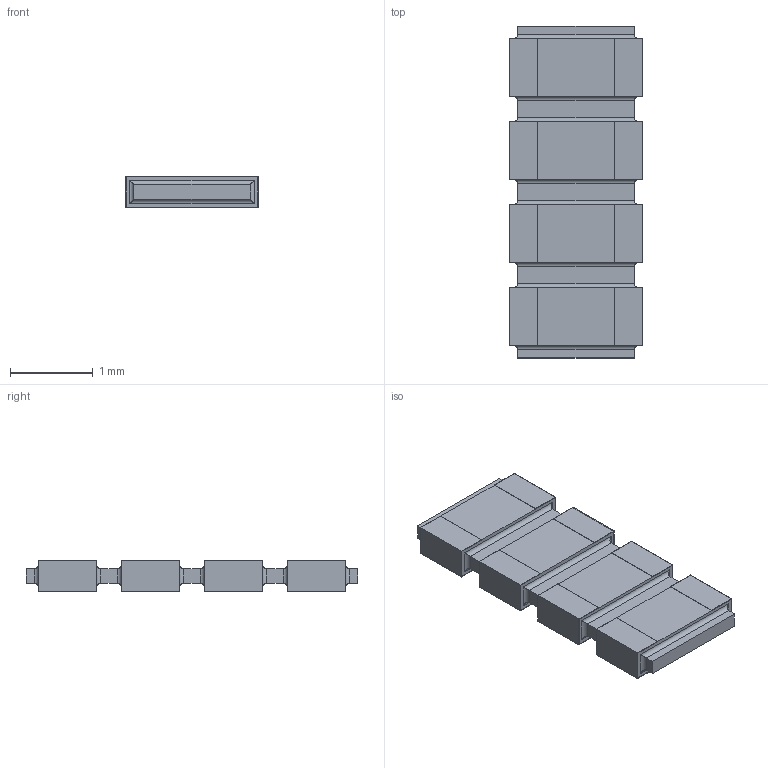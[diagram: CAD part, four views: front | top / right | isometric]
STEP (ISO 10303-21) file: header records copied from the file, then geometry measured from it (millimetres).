
FILE_DESCRIPTION(/* description */ (''),/* implementation_level */ '2;1');
FILE_NAME(/* name */ 'S:\DOCUMENT\AUTOCAD\3D_Modèles\10_3D-pour-VISHAY-COM\PRA\PRAHR100I4_B.stp',/* time_stamp */ '2018-02-02T10:46:09+01:00',/* author */ ('dparmentier'),/* organization */ ('unknown'),/* preprocessor_version */ 'ST-DEVELOPER v17',/* originating_system */ 'Autodesk Inventor 2018',/* authorisation */ '');
FILE_SCHEMA (('AUTOMOTIVE_DESIGN { 1 0 10303 214 3 1 1 }'));
Length unit declared in the file: millimetre
Products named in the file (1): PRAHR100I4_B
Bounding box: 1.6 x 4 x 0.38 mm (x, y, z)
Volume: 2 mm3; surface area: 29.3 mm2
Topology: 9 solids, 9 shells, 158 faces, 364 edges, 232 vertices
Faces by surface type: plane 126, cylinder 32
Entity records: 4409 total; most frequent: CARTESIAN_POINT 755, ORIENTED_EDGE 728, DIRECTION 714, EDGE_CURVE 364, LINE 332, VECTOR 332, VERTEX_POINT 232, AXIS2_PLACEMENT_3D 191
